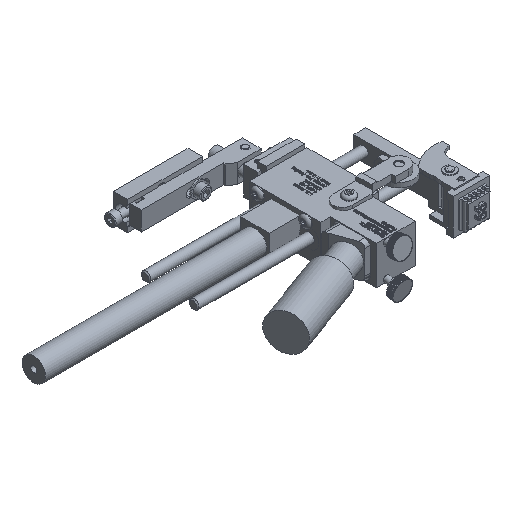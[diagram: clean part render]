
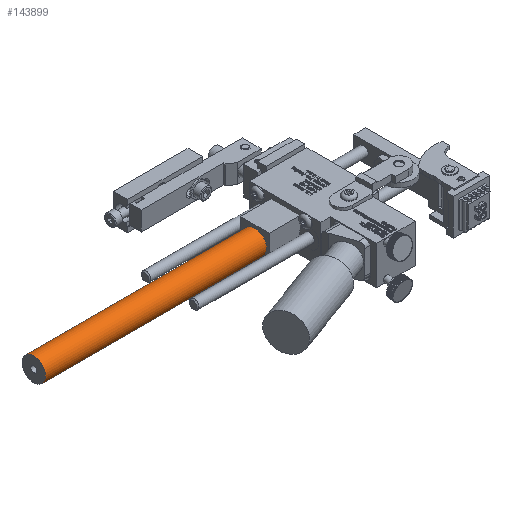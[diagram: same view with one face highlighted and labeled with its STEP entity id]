
A CAD part, isometric view. The second image highlights one B-rep face of the part: STEP entity #143899.
In plain terms, the highlighted cylindrical face has radius 7.747 mm (diameter 15.494 mm), a full revolution.
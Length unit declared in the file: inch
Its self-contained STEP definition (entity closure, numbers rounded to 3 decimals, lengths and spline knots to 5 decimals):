
#143872=CARTESIAN_POINT('',(0.2202,0.36387,0.375));
#143873=DIRECTION('',(1.0,0.,0.0));
#143874=DIRECTION('',(0.0,0.0,1.0));
#143875=AXIS2_PLACEMENT_3D('',#143872,#143873,#143874);
#143876=CYLINDRICAL_SURFACE('',#143875,0.305);
#143877=CARTESIAN_POINT('',(5.9702,0.36387,0.07));
#143878=VERTEX_POINT('',#143877);
#143879=CARTESIAN_POINT('',(5.9702,0.36387,0.375));
#143880=DIRECTION('',(-1.0,0.0,0.0));
#143881=DIRECTION('',(0.0,0.0,1.0));
#143882=AXIS2_PLACEMENT_3D('',#143879,#143880,#143881);
#143883=CIRCLE('',#143882,0.305);
#143884=EDGE_CURVE('',#143878,#143878,#143883,.T.);
#143885=ORIENTED_EDGE('',*,*,#143884,.T.);
#143886=EDGE_LOOP('',(#143885));
#143887=FACE_OUTER_BOUND('',#143886,.T.);
#143888=CARTESIAN_POINT('',(0.2202,0.36387,0.07));
#143889=VERTEX_POINT('',#143888);
#143890=CARTESIAN_POINT('',(0.2202,0.36387,0.375));
#143891=DIRECTION('',(-1.0,0.0,0.0));
#143892=DIRECTION('',(0.0,0.0,1.0));
#143893=AXIS2_PLACEMENT_3D('',#143890,#143891,#143892);
#143894=CIRCLE('',#143893,0.305);
#143895=EDGE_CURVE('',#143889,#143889,#143894,.T.);
#143896=ORIENTED_EDGE('',*,*,#143895,.F.);
#143897=EDGE_LOOP('',(#143896));
#143898=FACE_BOUND('',#143897,.T.);
#143899=ADVANCED_FACE('',(#143887,#143898),#143876,.T.);
